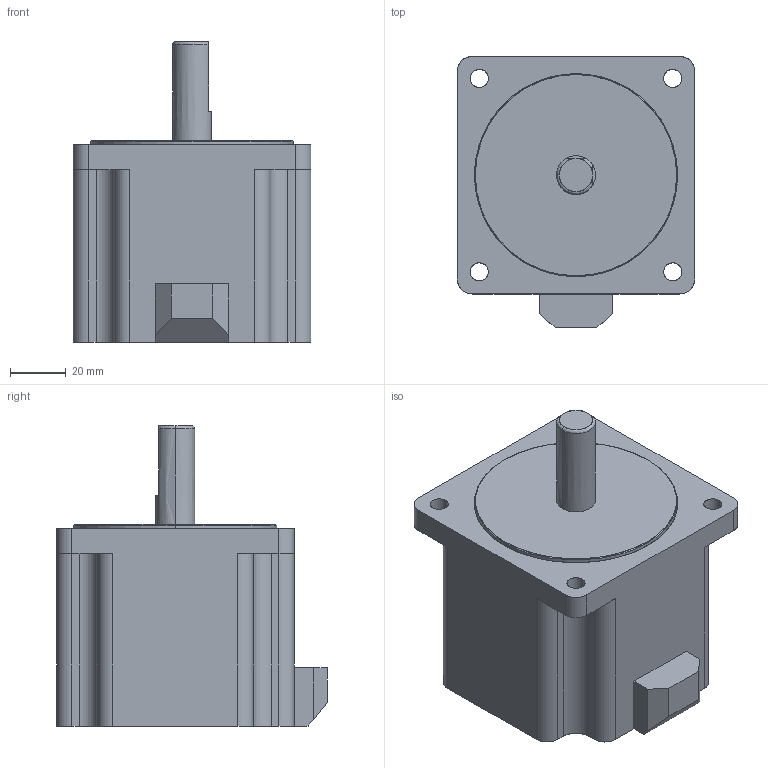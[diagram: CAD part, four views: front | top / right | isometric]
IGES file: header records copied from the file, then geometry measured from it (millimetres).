
Start section: SolidWorks IGES file using analytic representation for surfaces
Bounding box: 85.5 x 97.5 x 108.1 mm (x, y, z)
Surface area: 41780.4 mm2 (no closed solid volume)
Topology: 0 solids, 0 shells, 70 faces, 1342 edges, 1342 vertices
Faces by surface type: bspline 36, revolution 34
